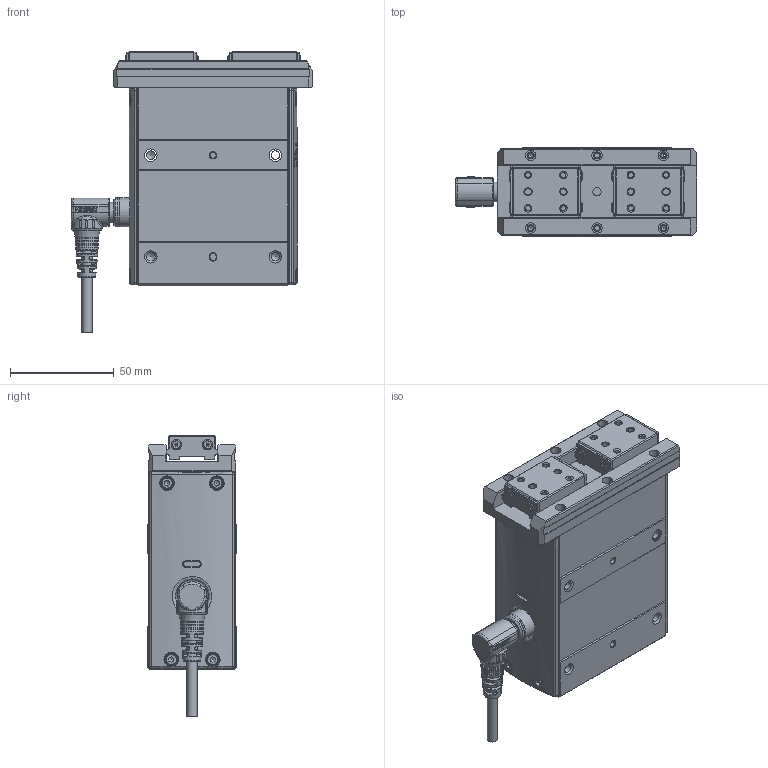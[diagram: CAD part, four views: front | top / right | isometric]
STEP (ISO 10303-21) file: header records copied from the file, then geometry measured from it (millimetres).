
FILE_DESCRIPTION(/* description */ (''),/* implementation_level */ '2;1');
FILE_NAME(/* name */ 'D:\2025.02.25 帶電匯整給泊舟\CHZ2-S22-WW.stp',/* time_stamp */ '2025-02-26T11:02:26+08:00',/* author */ ('T10033'),/* organization */ (''),/* preprocessor_version */ 'ST-DEVELOPER v18.1',/* originating_system */ 'Autodesk Inventor 2020',/* authorisation */ '');
FILE_SCHEMA (('CONFIG_CONTROL_DESIGN'));
Products named in the file (7): CHZ2-N22_(線直出+帶夾具); 12008-000057-02_蓋板修改; 慶陞金屬頭; 6WT3E5DF_Shrinkwrap_1; 63T6E3_Shrinkwrap_1; 43Y6E3TR_Shrinkwrap_1; M12-14PIN 線端90度接頭-05中繼線
Assembly tree (6 placements, depth 2):
  CHZ2-N22_(線直出+帶夾具)
    12008-000057-02_蓋板修改
    慶陞金屬頭
    6WT3E5DF_Shrinkwrap_1
    63T6E3_Shrinkwrap_1
    43Y6E3TR_Shrinkwrap_1
    M12-14PIN 線端90度接頭-05中繼線
Bounding box: 116.3 x 43 x 135.5 mm (x, y, z)
Volume: 360016 mm3; surface area: 81240.4 mm2
Topology: 44 solids, 49 shells, 2539 faces, 6850 edges, 4532 vertices
Faces by surface type: plane 1288, cylinder 568, cone 395, bspline 155, torus 113, sphere 20
Full cylindrical faces by diameter (mm): 0.6 x14, 0.65 x14, 1 x14, 2.013 x8, 2.224 x8, 2.459 x22, 2.5 x8, 2.7 x8, 2.8 x3, 3 x18, 3.4 x6, 4 x3, 4.134 x12, 5 x15, 5.5 x12, 6.647 x2, 8 x3, 8.9 x1, 9.5 x2, 9.6 x1, 10.5 x2, 10.9 x1, 11 x2, 11.2 x1, 11.25 x1, 12 x1, 13 x1, 13.8 x1, 14 x2, 14.4 x1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
Entity records: 110358 total; most frequent: CARTESIAN_POINT 42932, DIRECTION 13624, ORIENTED_EDGE 13590, EDGE_CURVE 6813, AXIS2_PLACEMENT_3D 5132, VERTEX_POINT 4531, LINE 3360, VECTOR 3360
